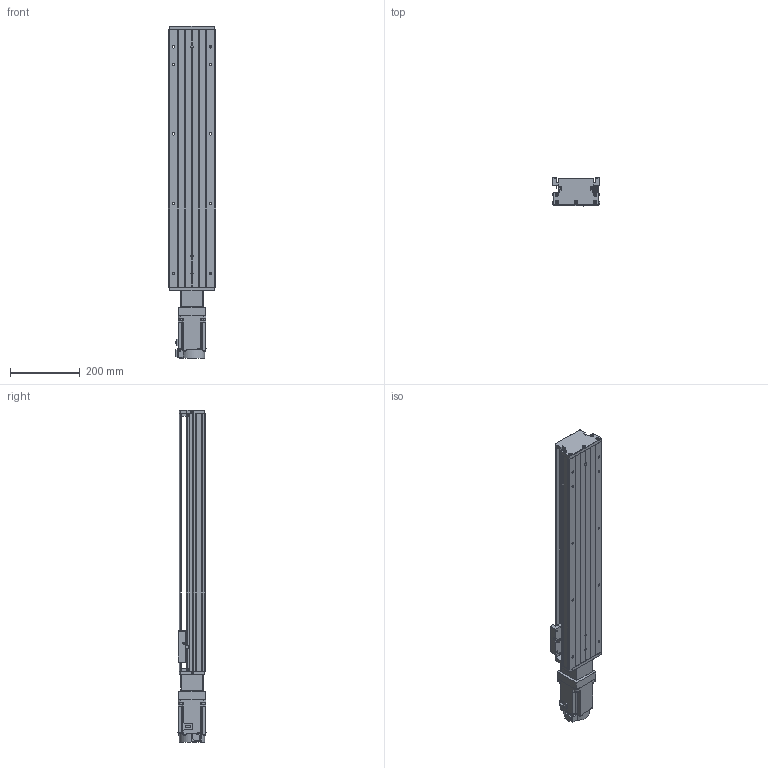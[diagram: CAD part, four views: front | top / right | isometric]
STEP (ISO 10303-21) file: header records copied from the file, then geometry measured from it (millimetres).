
FILE_DESCRIPTION (( 'STEP AP203' ), '1' );
FILE_NAME ('KTH130-600-BC-M75-C4.step', '2023-06-30T04:18:14', ( '微软用户' ), ( '微软中国' ), 'SwSTEP 2.0', 'SolidWorks 2020', '' );
FILE_SCHEMA (( 'CONFIG_CONTROL_DESIGN' ));
Length unit declared in the file: millimetre
Products named in the file (19): KTH130-004; CTHA60-016; CTHA86-027-1; KTH130-005; GBT 70.1-M3℅5; hg-kn73j_-s100; GB1155-6X6; GBT77-2000 M3×3; KTH130-600-BC-M75-C4; GBT70.1 M5℅16; す晦芛蹟隊 M3℅5; GBT 70.2-M3¡Á5_M3¡Á6; GBT 70.3-M3℅8; GTH14-001_600; CTHA60-017; CTHA86-006-1_M75; KTH130-002_KTH130-002; EE_SX911P_R; CTHA86-013
Assembly tree (52 placements, depth 2):
  KTH130-600-BC-M75-C4
    GTH14-001_600
    KTH130-002_KTH130-002
    KTH130-004
    KTH130-005
    GB1155-6X6  x2
    GBT70.1 M5℅16  x10
    GBT 70.2-M3¡Á5_M3¡Á6  x4
    CTHA60-017  x3
    EE_SX911P_R  x3
    CTHA60-016  x2
    GBT 70.1-M3℅5  x6
    GBT77-2000 M3×3  x6
    す晦芛蹟隊 M3℅5  x2
    GBT 70.3-M3℅8  x6
    CTHA86-006-1_M75
    CTHA86-013
    CTHA86-027-1
    hg-kn73j_-s100
Bounding box: 135 x 80.44 x 953.2 mm (x, y, z)
Volume: 5158822.9 mm3; surface area: 760101.2 mm2
Topology: 55 solids, 55 shells, 2260 faces, 5432 edges, 3383 vertices
Faces by surface type: plane 1242, cylinder 622, cone 280, torus 104, sphere 12
Entity records: 40154 total; most frequent: CARTESIAN_POINT 6631, DIRECTION 6611, ORIENTED_EDGE 6148, EDGE_CURVE 3074, AXIS2_PLACEMENT_3D 2299, LINE 2013, VECTOR 2013, VERTEX_POINT 1955
